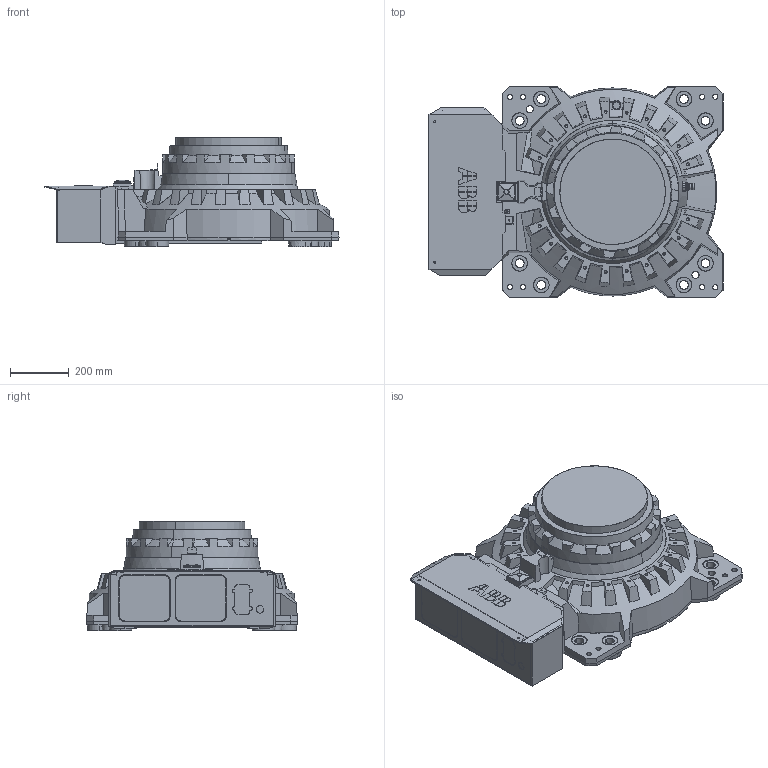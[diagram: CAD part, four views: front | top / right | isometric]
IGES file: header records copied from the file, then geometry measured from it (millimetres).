
Start section: SolidWorks IGES file using analytic representation for surfaces
Global section: file name: B:\Robotics\SEROP_PROJ\Product Development\DevelopmentProjects\RobCal\Design\CAD simuleringsmodeller\Till_RobotStudio\IRB6700-HL\IRB6700_235-265_IRC5_rev02\IRB6700_235-265_IRC5_rev02_IGES_j\IRB6700_235-265_IRC5_rev01_BASE_CAD.IGS; native system: SolidWorks 2014; preprocessor: SolidWorks 2014; author: SEEMTHE; date: 160127.112304; units: millimetre
Bounding box: 1004 x 720 x 373.5 mm (x, y, z)
Surface area: 2353922.8 mm2 (no closed solid volume)
Topology: 0 solids, 0 shells, 1049 faces, 13402 edges, 13358 vertices
Faces by surface type: bspline 587, revolution 462
